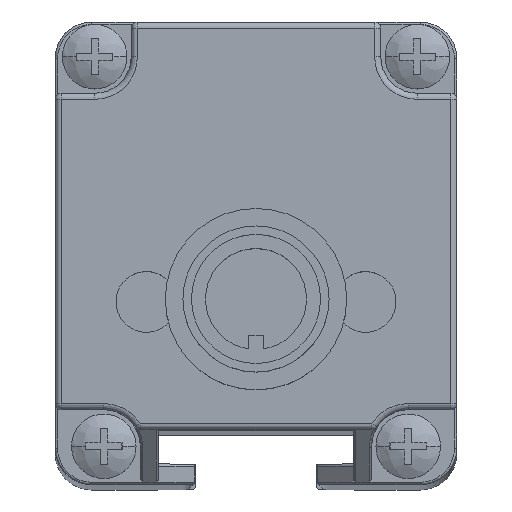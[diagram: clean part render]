
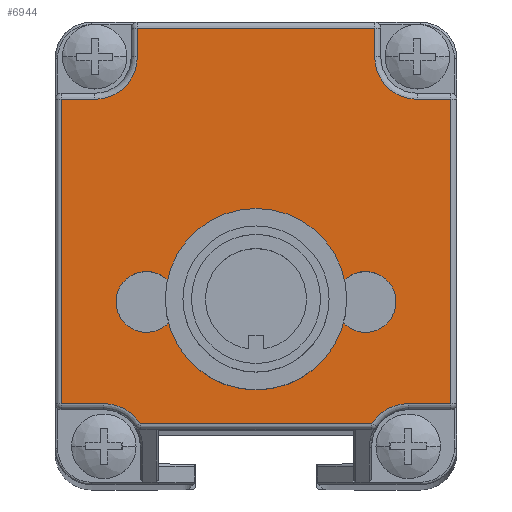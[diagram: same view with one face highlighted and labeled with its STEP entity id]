
A CAD part, top view. The second image highlights one B-rep face of the part: STEP entity #6944.
In plain terms, the highlighted planar face has unit normal (0, 0, 1).
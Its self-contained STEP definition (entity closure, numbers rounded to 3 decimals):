
#2821=CARTESIAN_POINT('',(-11.85,-19.904,
125.276));
#2822=DIRECTION('',(0.,0.,1.));
#2823=DIRECTION('',(0.849,0.528,0.));
#2824=AXIS2_PLACEMENT_3D('',#2821,#2822,#2823);
#2826=CARTESIAN_POINT('',(-12.6,12.094,125.276));
#2827=DIRECTION('',(0.,0.,1.));
#2828=DIRECTION('',(0.,-1.,0.));
#2829=AXIS2_PLACEMENT_3D('',#2826,#2827,#2828);
#2831=CARTESIAN_POINT('',(13.9,12.094,125.276));
#2832=DIRECTION('',(0.,0.,1.));
#2833=DIRECTION('',(-1.,0.,0.));
#2834=AXIS2_PLACEMENT_3D('',#2831,#2832,#2833);
#2836=CARTESIAN_POINT('',(13.15,-19.904,125.276));
#2837=DIRECTION('',(0.,0.,1.));
#2838=DIRECTION('',(0.,1.,0.));
#2839=AXIS2_PLACEMENT_3D('',#2836,#2837,#2838);
#2841=CARTESIAN_POINT('',(9.65,-8.055,125.276));
#2842=DIRECTION('',(0.,0.,1.));
#2843=DIRECTION('',(1.,-0.007,0.));
#2844=AXIS2_PLACEMENT_3D('',#2841,#2842,#2843);
#2846=CARTESIAN_POINT('',(9.65,-8.055,125.276));
#2847=DIRECTION('',(0.,0.,1.));
#2848=DIRECTION('',(-1.,0.007,0.));
#2849=AXIS2_PLACEMENT_3D('',#2846,#2847,#2848);
#2851=CARTESIAN_POINT('',(-8.35,-8.054,
125.276));
#2852=DIRECTION('',(0.,0.,1.));
#2853=DIRECTION('',(1.,0.007,0.));
#2854=AXIS2_PLACEMENT_3D('',#2851,#2852,#2853);
#2856=CARTESIAN_POINT('',(-8.35,-8.054,
125.276));
#2857=DIRECTION('',(0.,0.,1.));
#2858=DIRECTION('',(-1.,-0.007,0.));
#2859=AXIS2_PLACEMENT_3D('',#2856,#2857,#2858);
#2861=CARTESIAN_POINT('',(0.65,-8.054,
125.276));
#2862=DIRECTION('',(0.,0.,1.));
#2863=DIRECTION('',(1.,0.,0.));
#2864=AXIS2_PLACEMENT_3D('',#2861,#2862,#2863);
#2866=CARTESIAN_POINT('',(0.65,-8.054,
125.276));
#2867=DIRECTION('',(0.,0.,1.));
#2868=DIRECTION('',(-1.,0.,0.));
#2869=AXIS2_PLACEMENT_3D('',#2866,#2867,#2868);
#3049=DIRECTION('',(1.,0.,0.));
#3050=VECTOR('',#3049,19.056);
#3051=CARTESIAN_POINT('',(-8.878,-18.056,
125.276));
#3052=LINE('',#3051,#3050);
#3626=DIRECTION('',(0.,1.,0.));
#3627=VECTOR('',#3626,2.35);
#3628=CARTESIAN_POINT('',(10.4,12.094,125.276));
#3629=LINE('',#3628,#3627);
#3649=DIRECTION('',(-1.,0.,0.));
#3650=VECTOR('',#3649,19.5);
#3651=CARTESIAN_POINT('',(10.4,14.444,125.276));
#3652=LINE('',#3651,#3650);
#3673=DIRECTION('',(0.,-1.,0.));
#3674=VECTOR('',#3673,2.35);
#3675=CARTESIAN_POINT('',(-9.1,14.444,125.276));
#3676=LINE('',#3675,#3674);
#3700=DIRECTION('',(-1.,0.,0.));
#3701=VECTOR('',#3700,2.75);
#3702=CARTESIAN_POINT('',(-12.6,8.594,125.276));
#3703=LINE('',#3702,#3701);
#3871=DIRECTION('',(0.,-1.,0.));
#3872=VECTOR('',#3871,24.998);
#3873=CARTESIAN_POINT('',(-15.35,8.594,125.276));
#3874=LINE('',#3873,#3872);
#3910=DIRECTION('',(1.,0.,0.));
#3911=VECTOR('',#3910,3.5);
#3912=CARTESIAN_POINT('',(-15.35,-16.404,
125.276));
#3913=LINE('',#3912,#3911);
#4181=DIRECTION('',(-1.,0.,0.));
#4182=VECTOR('',#4181,2.75);
#4183=CARTESIAN_POINT('',(16.65,8.594,125.276));
#4184=LINE('',#4183,#4182);
#4240=DIRECTION('',(0.,1.,0.));
#4241=VECTOR('',#4240,24.998);
#4242=CARTESIAN_POINT('',(16.65,-16.404,125.276));
#4243=LINE('',#4242,#4241);
#4263=DIRECTION('',(1.,0.,0.));
#4264=VECTOR('',#4263,3.5);
#4265=CARTESIAN_POINT('',(13.15,-16.404,125.276));
#4266=LINE('',#4265,#4264);
#6010=CARTESIAN_POINT('',(12.15,-8.072,125.276));
#6011=VERTEX_POINT('',#6010);
#6012=CARTESIAN_POINT('',(7.15,-8.039,125.276));
#6013=VERTEX_POINT('',#6012);
#6014=CARTESIAN_POINT('',(-8.878,-18.056,
125.276));
#6015=CARTESIAN_POINT('',(-11.85,-16.404,
125.276));
#6016=VERTEX_POINT('',#6014);
#6017=VERTEX_POINT('',#6015);
#6018=CARTESIAN_POINT('',(-15.35,-16.404,
125.276));
#6019=VERTEX_POINT('',#6018);
#6020=CARTESIAN_POINT('',(-15.35,8.594,125.276));
#6021=VERTEX_POINT('',#6020);
#6022=CARTESIAN_POINT('',(-12.6,8.594,125.276));
#6023=VERTEX_POINT('',#6022);
#6024=CARTESIAN_POINT('',(-9.1,12.094,125.276));
#6025=VERTEX_POINT('',#6024);
#6026=CARTESIAN_POINT('',(-9.1,14.444,125.276));
#6027=VERTEX_POINT('',#6026);
#6028=CARTESIAN_POINT('',(10.4,14.444,125.276));
#6029=VERTEX_POINT('',#6028);
#6030=CARTESIAN_POINT('',(10.4,12.094,125.276));
#6031=VERTEX_POINT('',#6030);
#6032=CARTESIAN_POINT('',(13.9,8.594,125.276));
#6033=VERTEX_POINT('',#6032);
#6034=CARTESIAN_POINT('',(16.65,8.594,125.276));
#6035=VERTEX_POINT('',#6034);
#6036=CARTESIAN_POINT('',(16.65,-16.404,125.276));
#6037=VERTEX_POINT('',#6036);
#6038=CARTESIAN_POINT('',(13.15,-16.404,125.276));
#6039=VERTEX_POINT('',#6038);
#6040=CARTESIAN_POINT('',(10.178,-18.056,125.276));
#6041=VERTEX_POINT('',#6040);
#6042=CARTESIAN_POINT('',(-5.85,-8.037,
125.276));
#6043=CARTESIAN_POINT('',(-10.85,-8.07,
125.276));
#6044=VERTEX_POINT('',#6042);
#6045=VERTEX_POINT('',#6043);
#6046=CARTESIAN_POINT('',(3.65,-8.054,125.276));
#6047=CARTESIAN_POINT('',(-2.35,-8.054,
125.276));
#6048=VERTEX_POINT('',#6046);
#6049=VERTEX_POINT('',#6047);
#6893=CARTESIAN_POINT('',(0.65,0.944,
125.276));
#6894=DIRECTION('',(0.,0.,1.));
#6895=DIRECTION('',(1.,0.,0.));
#6896=AXIS2_PLACEMENT_3D('',#6893,#6894,#6895);
#6897=PLANE('',#6896);
#6899=ORIENTED_EDGE('',*,*,#6898,.T.);
#6901=ORIENTED_EDGE('',*,*,#6900,.F.);
#6903=ORIENTED_EDGE('',*,*,#6902,.F.);
#6905=ORIENTED_EDGE('',*,*,#6904,.F.);
#6907=ORIENTED_EDGE('',*,*,#6906,.T.);
#6909=ORIENTED_EDGE('',*,*,#6908,.F.);
#6911=ORIENTED_EDGE('',*,*,#6910,.F.);
#6913=ORIENTED_EDGE('',*,*,#6912,.F.);
#6915=ORIENTED_EDGE('',*,*,#6914,.T.);
#6917=ORIENTED_EDGE('',*,*,#6916,.F.);
#6919=ORIENTED_EDGE('',*,*,#6918,.F.);
#6921=ORIENTED_EDGE('',*,*,#6920,.F.);
#6923=ORIENTED_EDGE('',*,*,#6922,.T.);
#6925=ORIENTED_EDGE('',*,*,#6924,.F.);
#6926=EDGE_LOOP('',(#6899,#6901,#6903,#6905,#6907,#6909,#6911,#6913,#6915,#6917,
#6919,#6921,#6923,#6925));
#6927=FACE_OUTER_BOUND('',#6926,.F.);
#6928=ORIENTED_EDGE('',*,*,#6880,.T.);
#6929=ORIENTED_EDGE('',*,*,#6841,.T.);
#6930=EDGE_LOOP('',(#6928,#6929));
#6931=FACE_BOUND('',#6930,.F.);
#6933=ORIENTED_EDGE('',*,*,#6932,.T.);
#6935=ORIENTED_EDGE('',*,*,#6934,.T.);
#6936=EDGE_LOOP('',(#6933,#6935));
#6937=FACE_BOUND('',#6936,.F.);
#6939=ORIENTED_EDGE('',*,*,#6938,.T.);
#6941=ORIENTED_EDGE('',*,*,#6940,.T.);
#6942=EDGE_LOOP('',(#6939,#6941));
#6943=FACE_BOUND('',#6942,.F.);
#2825=CIRCLE('',#2824,3.5);
#2830=CIRCLE('',#2829,3.5);
#2835=CIRCLE('',#2834,3.5);
#2840=CIRCLE('',#2839,3.5);
#2845=CIRCLE('',#2844,2.5);
#2850=CIRCLE('',#2849,2.5);
#2855=CIRCLE('',#2854,2.5);
#2860=CIRCLE('',#2859,2.5);
#2865=CIRCLE('',#2864,3.);
#2870=CIRCLE('',#2869,3.);
#6841=EDGE_CURVE('',#6013,#6011,#2850,.T.);
#6880=EDGE_CURVE('',#6011,#6013,#2845,.T.);
#6898=EDGE_CURVE('',#6016,#6017,#2825,.T.);
#6900=EDGE_CURVE('',#6019,#6017,#3913,.T.);
#6902=EDGE_CURVE('',#6021,#6019,#3874,.T.);
#6904=EDGE_CURVE('',#6023,#6021,#3703,.T.);
#6906=EDGE_CURVE('',#6023,#6025,#2830,.T.);
#6908=EDGE_CURVE('',#6027,#6025,#3676,.T.);
#6910=EDGE_CURVE('',#6029,#6027,#3652,.T.);
#6912=EDGE_CURVE('',#6031,#6029,#3629,.T.);
#6914=EDGE_CURVE('',#6031,#6033,#2835,.T.);
#6916=EDGE_CURVE('',#6035,#6033,#4184,.T.);
#6918=EDGE_CURVE('',#6037,#6035,#4243,.T.);
#6920=EDGE_CURVE('',#6039,#6037,#4266,.T.);
#6922=EDGE_CURVE('',#6039,#6041,#2840,.T.);
#6924=EDGE_CURVE('',#6016,#6041,#3052,.T.);
#6932=EDGE_CURVE('',#6044,#6045,#2855,.T.);
#6934=EDGE_CURVE('',#6045,#6044,#2860,.T.);
#6938=EDGE_CURVE('',#6048,#6049,#2865,.T.);
#6940=EDGE_CURVE('',#6049,#6048,#2870,.T.);
#6944=ADVANCED_FACE('',(#6927,#6931,#6937,#6943),#6897,.T.);
